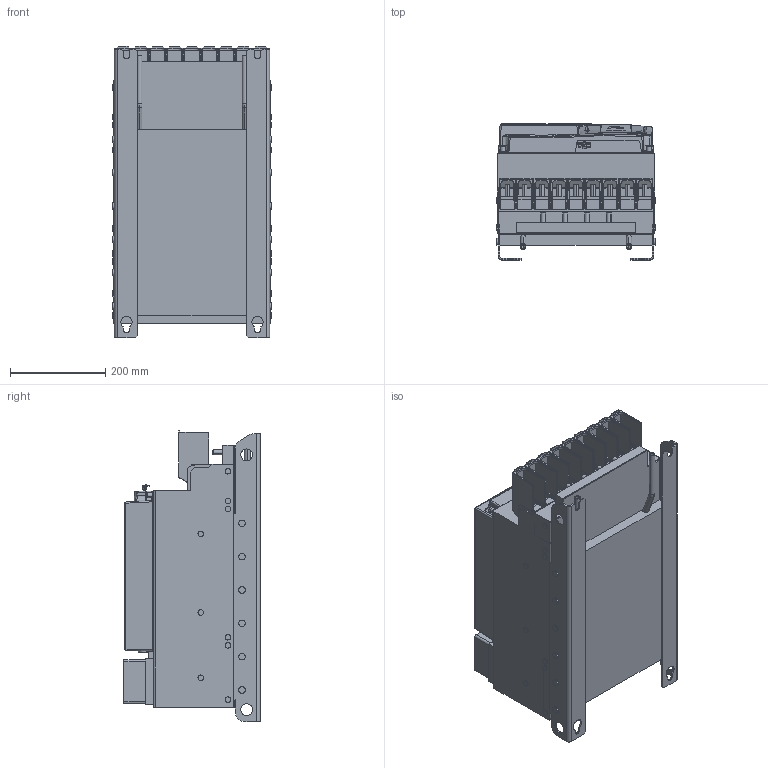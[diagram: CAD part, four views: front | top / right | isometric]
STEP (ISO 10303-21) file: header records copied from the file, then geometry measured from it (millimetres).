
FILE_DESCRIPTION (( 'STEP AP214' ), '1' );
FILE_NAME ('F6-7TW0-P150.STEP', '2021-02-26T14:03:29', ( '' ), ( '' ), 'SwSTEP 2.0', 'SolidWorks 2019', '' );
FILE_SCHEMA (( 'AUTOMOTIVE_DESIGN' ));
Length unit declared in the file: millimetre
Products named in the file (13): 10061522_000; 10051076_000_Kundenmodell; 10061504_000_Gehеsebaugruppe ohne L’terkarte; 10059762_000_Kundenmodell mit Geberbuchsen; 10060724_000_ Leistungsteil F6-7 TW0 (Kundenmodell); 10059764_000_Blindabdeckung (Kundenmodell); 10059765_000; 10045475_000_Geh„usebaugruppe F6-7 (Kundenmodell); 10061502_000_Deckel (Kundenmodell); 10061629_000; 10061503_000; 10043622_000_70F6 Klemme (Kundenmodell); F6-7TW0-P150
Assembly tree (12 placements, depth 4):
  F6-7TW0-P150
    10060724_000_ Leistungsteil F6-7 TW0 (Kundenmodell)
      10043622_000_70F6 Klemme (Kundenmodell)
        10061522_000
      10061629_000
    10045475_000_Geh„usebaugruppe F6-7 (Kundenmodell)
      10061502_000_Deckel (Kundenmodell)
        10061503_000
      10061504_000_Gehеsebaugruppe ohne L’terkarte
    10051076_000_Kundenmodell
      10059764_000_Blindabdeckung (Kundenmodell)
        10059765_000
      10059762_000_Kundenmodell mit Geberbuchsen
Bounding box: 335.4 x 285.9 x 611.76 mm (x, y, z)
Volume: 40115081.5 mm3; surface area: 2134665.4 mm2
Topology: 12 solids, 12 shells, 3050 faces, 7823 edges, 4797 vertices
Faces by surface type: plane 1555, cylinder 910, bspline 278, sphere 172, torus 73, cone 62
Entity records: 98762 total; most frequent: CARTESIAN_POINT 26968, ORIENTED_EDGE 15424, DIRECTION 14081, EDGE_CURVE 7712, LINE 4953, VECTOR 4953, VERTEX_POINT 4794, AXIS2_PLACEMENT_3D 4564
